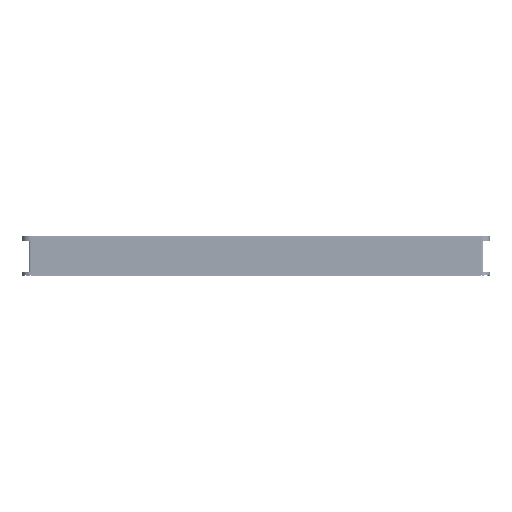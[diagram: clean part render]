
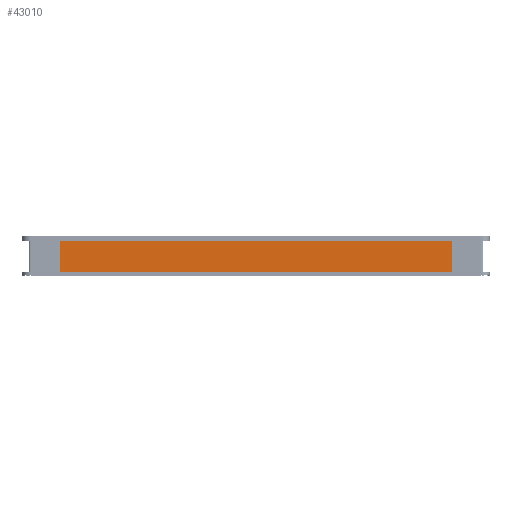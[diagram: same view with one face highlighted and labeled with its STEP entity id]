
A CAD part, left-side view. The second image highlights one B-rep face of the part: STEP entity #43010.
In plain terms, the highlighted planar face has unit normal (-1, 0, 0).
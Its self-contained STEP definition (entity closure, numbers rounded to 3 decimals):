
#741 = CARTESIAN_POINT ( 'NONE',  ( -725.983, -248.14, -92.045 ) ) ;
#6895 = DIRECTION ( 'NONE',  ( 0., -1., 0. ) ) ;
#11071 = ORIENTED_EDGE ( 'NONE', *, *, #61973, .T. ) ;
#11747 = AXIS2_PLACEMENT_3D ( 'NONE', #11813, #48498, #54407 ) ;
#11813 = CARTESIAN_POINT ( 'NONE',  ( -725.983, 34.86, -111.545 ) ) ;
#11833 = ORIENTED_EDGE ( 'NONE', *, *, #40164, .T. ) ;
#13250 = EDGE_CURVE ( 'NONE', #36701, #38089, #58056, .T. ) ;
#13409 = CARTESIAN_POINT ( 'NONE',  ( -725.983, -248.14, -131.045 ) ) ;
#16304 = VECTOR ( 'NONE', #69992, 1000. ) ;
#16498 = LINE ( 'NONE', #67854, #57466 ) ;
#18235 = LINE ( 'NONE', #71039, #16304 ) ;
#19305 = EDGE_LOOP ( 'NONE', ( #60463, #11833, #11071, #33560 ) ) ;
#19816 = VECTOR ( 'NONE', #34183, 1000. ) ;
#33560 = ORIENTED_EDGE ( 'NONE', *, *, #13250, .T. ) ;
#34183 = DIRECTION ( 'NONE',  ( 0., 0., -1. ) ) ;
#36701 = VERTEX_POINT ( 'NONE', #741 ) ;
#37065 = VERTEX_POINT ( 'NONE', #13409 ) ;
#38089 = VERTEX_POINT ( 'NONE', #42315 ) ;
#40164 = EDGE_CURVE ( 'NONE', #64311, #37065, #16498, .T. ) ;
#42315 = CARTESIAN_POINT ( 'NONE',  ( -725.983, 317.86, -92.045 ) ) ;
#43010 = ADVANCED_FACE ( 'NONE', ( #78565 ), #78393, .F. ) ;
#48498 = DIRECTION ( 'NONE',  ( 1., 0., 0. ) ) ;
#51185 = LINE ( 'NONE', #58457, #19816 ) ;
#53688 = EDGE_CURVE ( 'NONE', #38089, #64311, #51185, .T. ) ;
#54407 = DIRECTION ( 'NONE',  ( 0., -1., 0. ) ) ;
#57466 = VECTOR ( 'NONE', #6895, 1000. ) ;
#58056 = LINE ( 'NONE', #66801, #69557 ) ;
#58457 = CARTESIAN_POINT ( 'NONE',  ( -725.983, 317.86, -92.045 ) ) ;
#60463 = ORIENTED_EDGE ( 'NONE', *, *, #53688, .T. ) ;
#61973 = EDGE_CURVE ( 'NONE', #37065, #36701, #18235, .T. ) ;
#64311 = VERTEX_POINT ( 'NONE', #70153 ) ;
#66801 = CARTESIAN_POINT ( 'NONE',  ( -725.983, -248.14, -92.045 ) ) ;
#67854 = CARTESIAN_POINT ( 'NONE',  ( -725.983, -248.14, -131.045 ) ) ;
#69557 = VECTOR ( 'NONE', #73223, 1000. ) ;
#69992 = DIRECTION ( 'NONE',  ( 0., 0., 1. ) ) ;
#70153 = CARTESIAN_POINT ( 'NONE',  ( -725.983, 317.86, -131.045 ) ) ;
#71039 = CARTESIAN_POINT ( 'NONE',  ( -725.983, -248.14, -92.045 ) ) ;
#73223 = DIRECTION ( 'NONE',  ( 0., 1., 0. ) ) ;
#78393 = PLANE ( 'NONE',  #11747 ) ;
#78565 = FACE_OUTER_BOUND ( 'NONE', #19305, .T. ) ;
